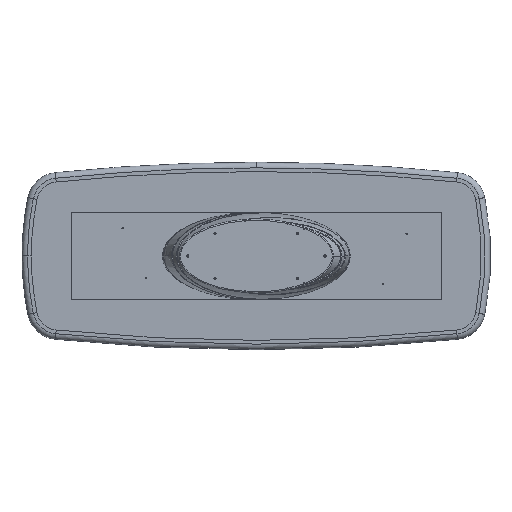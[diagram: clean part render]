
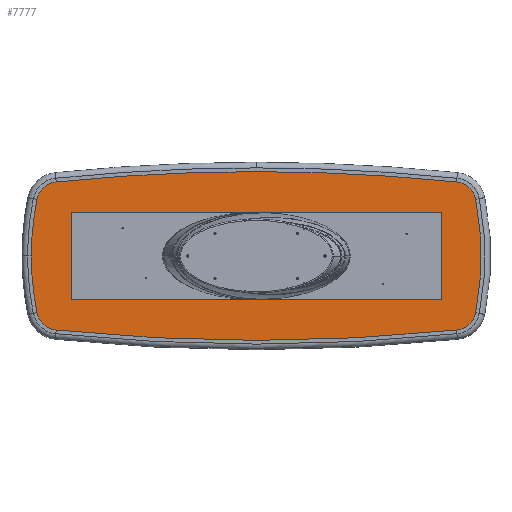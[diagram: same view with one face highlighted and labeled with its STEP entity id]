
A CAD part, front view. The second image highlights one B-rep face of the part: STEP entity #7777.
In plain terms, the highlighted planar face has unit normal (0, -1, 0).
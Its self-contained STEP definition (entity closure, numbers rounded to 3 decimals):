
#251 = EDGE_CURVE ( 'NONE', #20428, #25697, #1525, .T. ) ;
#694 = CARTESIAN_POINT ( 'NONE',  ( 0., 40., -11900. ) ) ;
#1371 = CARTESIAN_POINT ( 'NONE',  ( 400., 40., 0. ) ) ;
#1525 = CIRCLE ( 'NONE', #15272, 140. ) ;
#1544 = EDGE_CURVE ( 'NONE', #23074, #34946, #14673, .T. ) ;
#2165 = DIRECTION ( 'NONE',  ( 0., 0., 1. ) ) ;
#2787 = CARTESIAN_POINT ( 'NONE',  ( 0., 40., -11900. ) ) ;
#3197 = DIRECTION ( 'NONE',  ( 0., 0., 1. ) ) ;
#3444 = AXIS2_PLACEMENT_3D ( 'NONE', #4114, #30953, #3197 ) ;
#3656 = CARTESIAN_POINT ( 'NONE',  ( -1404.008, 40., -362.152 ) ) ;
#3715 = EDGE_LOOP ( 'NONE', ( #29027, #20647, #19638, #37021, #34991, #18623, #37630, #36877, #16699, #8550 ) ) ;
#4114 = CARTESIAN_POINT ( 'NONE',  ( 1266.747, 40., -334.597 ) ) ;
#4305 = DIRECTION ( 'NONE',  ( 0., 1., 0. ) ) ;
#5613 = EDGE_CURVE ( 'NONE', #20311, #20428, #36579, .T. ) ;
#6571 = EDGE_CURVE ( 'NONE', #34946, #26800, #34745, .T. ) ;
#6572 = CIRCLE ( 'NONE', #9100, 12440. ) ;
#7220 = CARTESIAN_POINT ( 'NONE',  ( -1281.165, 40., 473.852 ) ) ;
#7268 = EDGE_CURVE ( 'NONE', #18554, #23074, #23488, .T. ) ;
#7448 = EDGE_CURVE ( 'NONE', #25697, #9789, #6572, .T. ) ;
#7642 = PLANE ( 'NONE',  #10975 ) ;
#7777 = ADVANCED_FACE ( 'NONE', ( #34876 ), #7642, .F. ) ;
#8177 = EDGE_CURVE ( 'NONE', #25962, #18554, #14720, .T. ) ;
#8386 = DIRECTION ( 'NONE',  ( 0., 0., 1. ) ) ;
#8550 = ORIENTED_EDGE ( 'NONE', *, *, #34260, .F. ) ;
#9100 = AXIS2_PLACEMENT_3D ( 'NONE', #694, #12837, #12639 ) ;
#9249 = CARTESIAN_POINT ( 'NONE',  ( -1266.747, 40., 334.597 ) ) ;
#9789 = VERTEX_POINT ( 'NONE', #22881 ) ;
#10975 = AXIS2_PLACEMENT_3D ( 'NONE', #13719, #31937, #2165 ) ;
#11629 = EDGE_CURVE ( 'NONE', #9789, #35098, #32904, .T. ) ;
#12535 = DIRECTION ( 'NONE',  ( 0., 0., 1. ) ) ;
#12570 = DIRECTION ( 'NONE',  ( 0., 1., 0. ) ) ;
#12639 = DIRECTION ( 'NONE',  ( 0., 0., 1. ) ) ;
#12837 = DIRECTION ( 'NONE',  ( 0., 1., 0. ) ) ;
#13719 = CARTESIAN_POINT ( 'NONE',  ( -433.373, 40., -167.298 ) ) ;
#14673 = CIRCLE ( 'NONE', #35913, 12440. ) ;
#14720 = CIRCLE ( 'NONE', #24721, 1840. ) ;
#14923 = DIRECTION ( 'NONE',  ( 0., 1., 0. ) ) ;
#15111 = DIRECTION ( 'NONE',  ( 0., 0., 1. ) ) ;
#15272 = AXIS2_PLACEMENT_3D ( 'NONE', #9249, #12570, #30407 ) ;
#15294 = AXIS2_PLACEMENT_3D ( 'NONE', #1371, #4305, #12535 ) ;
#15640 = CARTESIAN_POINT ( 'NONE',  ( 1404.008, 40., 362.152 ) ) ;
#16439 = CIRCLE ( 'NONE', #21439, 1840. ) ;
#16699 = ORIENTED_EDGE ( 'NONE', *, *, #5613, .F. ) ;
#17652 = CIRCLE ( 'NONE', #23308, 140. ) ;
#17990 = DIRECTION ( 'NONE',  ( 0., 0., 1. ) ) ;
#18554 = VERTEX_POINT ( 'NONE', #31342 ) ;
#18623 = ORIENTED_EDGE ( 'NONE', *, *, #11629, .F. ) ;
#19638 = ORIENTED_EDGE ( 'NONE', *, *, #7268, .F. ) ;
#20311 = VERTEX_POINT ( 'NONE', #20901 ) ;
#20428 = VERTEX_POINT ( 'NONE', #20713 ) ;
#20647 = ORIENTED_EDGE ( 'NONE', *, *, #1544, .F. ) ;
#20713 = CARTESIAN_POINT ( 'NONE',  ( -1404.008, 40., 362.152 ) ) ;
#20901 = CARTESIAN_POINT ( 'NONE',  ( -1440., 40., 0. ) ) ;
#21439 = AXIS2_PLACEMENT_3D ( 'NONE', #21692, #36380, #29939 ) ;
#21692 = CARTESIAN_POINT ( 'NONE',  ( 400., 40., 0. ) ) ;
#21885 = CARTESIAN_POINT ( 'NONE',  ( 1281.165, 40., -473.852 ) ) ;
#22801 = DIRECTION ( 'NONE',  ( 0., 0., 1. ) ) ;
#22881 = CARTESIAN_POINT ( 'NONE',  ( 0., 40., 540. ) ) ;
#23074 = VERTEX_POINT ( 'NONE', #21885 ) ;
#23275 = DIRECTION ( 'NONE',  ( 0., 1., 0. ) ) ;
#23308 = AXIS2_PLACEMENT_3D ( 'NONE', #37884, #37492, #22801 ) ;
#23488 = CIRCLE ( 'NONE', #3444, 140. ) ;
#23517 = AXIS2_PLACEMENT_3D ( 'NONE', #2787, #14923, #15111 ) ;
#23680 = DIRECTION ( 'NONE',  ( 0., 1., 0. ) ) ;
#24721 = AXIS2_PLACEMENT_3D ( 'NONE', #25668, #29912, #32662 ) ;
#25668 = CARTESIAN_POINT ( 'NONE',  ( -400., 40., 0. ) ) ;
#25697 = VERTEX_POINT ( 'NONE', #7220 ) ;
#25962 = VERTEX_POINT ( 'NONE', #15640 ) ;
#26217 = CARTESIAN_POINT ( 'NONE',  ( 0., 40., 11900. ) ) ;
#26800 = VERTEX_POINT ( 'NONE', #3656 ) ;
#27371 = CARTESIAN_POINT ( 'NONE',  ( -1266.747, 40., -334.597 ) ) ;
#27850 = AXIS2_PLACEMENT_3D ( 'NONE', #27371, #23680, #17990 ) ;
#29027 = ORIENTED_EDGE ( 'NONE', *, *, #6571, .F. ) ;
#29912 = DIRECTION ( 'NONE',  ( 0., 1., 0. ) ) ;
#29939 = DIRECTION ( 'NONE',  ( 0., 0., 1. ) ) ;
#29975 = EDGE_CURVE ( 'NONE', #35098, #25962, #17652, .T. ) ;
#30407 = DIRECTION ( 'NONE',  ( 0., 0., 1. ) ) ;
#30953 = DIRECTION ( 'NONE',  ( 0., 1., 0. ) ) ;
#31342 = CARTESIAN_POINT ( 'NONE',  ( 1404.008, 40., -362.152 ) ) ;
#31937 = DIRECTION ( 'NONE',  ( 0., 1., 0. ) ) ;
#32662 = DIRECTION ( 'NONE',  ( 0., 0., 1. ) ) ;
#32904 = CIRCLE ( 'NONE', #23517, 12440. ) ;
#34260 = EDGE_CURVE ( 'NONE', #26800, #20311, #16439, .T. ) ;
#34414 = CARTESIAN_POINT ( 'NONE',  ( -1281.165, 40., -473.852 ) ) ;
#34745 = CIRCLE ( 'NONE', #27850, 140. ) ;
#34876 = FACE_OUTER_BOUND ( 'NONE', #3715, .T. ) ;
#34946 = VERTEX_POINT ( 'NONE', #34414 ) ;
#34991 = ORIENTED_EDGE ( 'NONE', *, *, #29975, .F. ) ;
#35098 = VERTEX_POINT ( 'NONE', #37456 ) ;
#35913 = AXIS2_PLACEMENT_3D ( 'NONE', #26217, #23275, #8386 ) ;
#36380 = DIRECTION ( 'NONE',  ( 0., 1., 0. ) ) ;
#36579 = CIRCLE ( 'NONE', #15294, 1840. ) ;
#36877 = ORIENTED_EDGE ( 'NONE', *, *, #251, .F. ) ;
#37021 = ORIENTED_EDGE ( 'NONE', *, *, #8177, .F. ) ;
#37456 = CARTESIAN_POINT ( 'NONE',  ( 1281.165, 40., 473.852 ) ) ;
#37492 = DIRECTION ( 'NONE',  ( 0., 1., 0. ) ) ;
#37630 = ORIENTED_EDGE ( 'NONE', *, *, #7448, .F. ) ;
#37884 = CARTESIAN_POINT ( 'NONE',  ( 1266.747, 40., 334.597 ) ) ;
